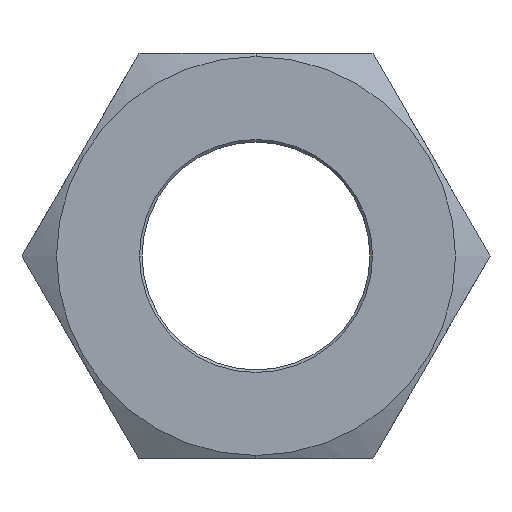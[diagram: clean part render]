
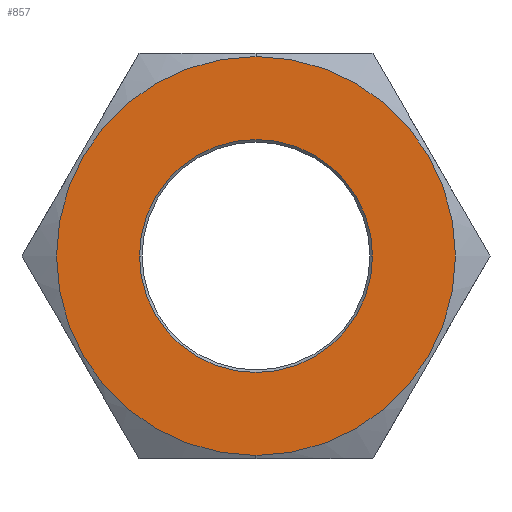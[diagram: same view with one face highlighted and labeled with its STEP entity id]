
A CAD part, left-side view. The second image highlights one B-rep face of the part: STEP entity #857.
In plain terms, the highlighted planar face has unit normal (-1, 0, 0) as drawn and (0, 0, 1) by its records, which use the part's own axes.
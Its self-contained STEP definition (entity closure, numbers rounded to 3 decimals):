
#141=CARTESIAN_POINT('',(15.75,0.0,9.25));
#142=VERTEX_POINT('',#141);
#151=CARTESIAN_POINT('',(-15.75,0.,9.25));
#152=VERTEX_POINT('',#151);
#153=CARTESIAN_POINT('',(0.,0.0,9.25));
#154=DIRECTION('',(0.0,0.0,1.0));
#155=DIRECTION('',(1.0,0.0,0.0));
#156=AXIS2_PLACEMENT_3D('',#153,#154,#155);
#157=CIRCLE('',#156,15.75);
#158=EDGE_CURVE('',#152,#142,#157,.T.);
#471=CARTESIAN_POINT('',(0.,9.2,9.25));
#472=VERTEX_POINT('',#471);
#480=CARTESIAN_POINT('',(0.,-9.2,9.25));
#481=VERTEX_POINT('',#480);
#488=CARTESIAN_POINT('',(0.,0.,9.25));
#489=DIRECTION('',(0.0,0.0,-1.0));
#490=DIRECTION('',(0.0,1.0,0.0));
#491=AXIS2_PLACEMENT_3D('',#488,#489,#490);
#492=CIRCLE('',#491,9.2);
#493=EDGE_CURVE('',#472,#481,#492,.T.);
#504=CARTESIAN_POINT('',(0.,0.,9.25));
#505=DIRECTION('',(0.0,0.0,-1.0));
#506=DIRECTION('',(0.0,1.0,0.0));
#507=AXIS2_PLACEMENT_3D('',#504,#505,#506);
#508=CIRCLE('',#507,9.2);
#509=EDGE_CURVE('',#481,#472,#508,.T.);
#728=CARTESIAN_POINT('',(0.,0.0,9.25));
#729=DIRECTION('',(0.0,0.0,1.0));
#730=DIRECTION('',(1.0,0.0,0.0));
#731=AXIS2_PLACEMENT_3D('',#728,#729,#730);
#732=CIRCLE('',#731,15.75);
#733=EDGE_CURVE('',#142,#152,#732,.T.);
#844=CARTESIAN_POINT('',(0.,0.,9.25));
#845=DIRECTION('',(0.0,0.0,1.0));
#846=DIRECTION('',(1.0,0.0,0.0));
#847=AXIS2_PLACEMENT_3D('',#844,#845,#846);
#848=PLANE('',#847);
#849=ORIENTED_EDGE('',*,*,#733,.T.);
#850=ORIENTED_EDGE('',*,*,#158,.T.);
#851=EDGE_LOOP('',(#849,#850));
#852=FACE_OUTER_BOUND('',#851,.T.);
#853=ORIENTED_EDGE('',*,*,#493,.T.);
#854=ORIENTED_EDGE('',*,*,#509,.T.);
#855=EDGE_LOOP('',(#853,#854));
#856=FACE_BOUND('',#855,.T.);
#857=ADVANCED_FACE('',(#852,#856),#848,.T.);
